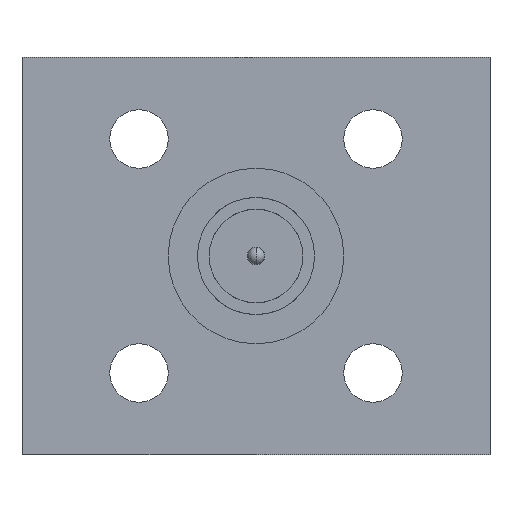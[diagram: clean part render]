
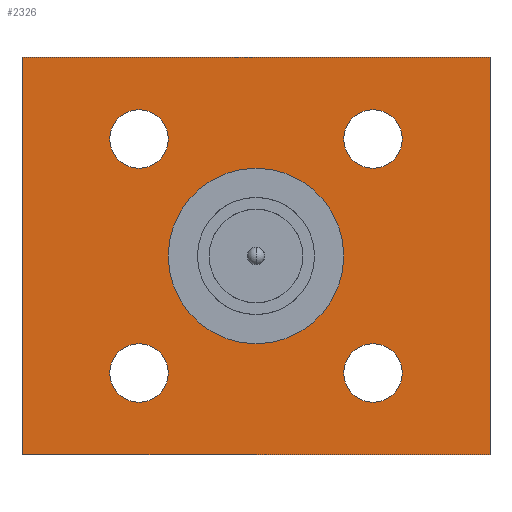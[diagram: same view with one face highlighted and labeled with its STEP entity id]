
A CAD part, front view. The second image highlights one B-rep face of the part: STEP entity #2326.
In plain terms, the highlighted planar face has unit normal (0, -1, 0).
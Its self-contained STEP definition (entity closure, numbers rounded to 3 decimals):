
#26 = DIRECTION ( 'NONE',  ( 1., 0., 0. ) ) ;
#34 = AXIS2_PLACEMENT_3D ( 'NONE', #1115, #1961, #706 ) ;
#38 = CARTESIAN_POINT ( 'NONE',  ( 20., 0., 17. ) ) ;
#47 = DIRECTION ( 'NONE',  ( 0., 0., -1. ) ) ;
#78 = DIRECTION ( 'NONE',  ( 0., -1., 0. ) ) ;
#135 = FACE_BOUND ( 'NONE', #1178, .T. ) ;
#184 = DIRECTION ( 'NONE',  ( 0., 1., 0. ) ) ;
#207 = VECTOR ( 'NONE', #233, 1000. ) ;
#223 = FACE_OUTER_BOUND ( 'NONE', #1985, .T. ) ;
#228 = CARTESIAN_POINT ( 'NONE',  ( 10., 0., -12.5 ) ) ;
#230 = EDGE_LOOP ( 'NONE', ( #1317, #2380 ) ) ;
#233 = DIRECTION ( 'NONE',  ( 0., 0., 1. ) ) ;
#288 = EDGE_CURVE ( 'NONE', #2323, #328, #293, .T. ) ;
#293 = CIRCLE ( 'NONE', #1329, 2.5 ) ;
#310 = DIRECTION ( 'NONE',  ( 0., -1., 0. ) ) ;
#328 = VERTEX_POINT ( 'NONE', #2024 ) ;
#391 = DIRECTION ( 'NONE',  ( 0., 0., -1. ) ) ;
#393 = EDGE_LOOP ( 'NONE', ( #1040, #1397 ) ) ;
#404 = EDGE_CURVE ( 'NONE', #1422, #2051, #2154, .T. ) ;
#422 = DIRECTION ( 'NONE',  ( 0., 0., -1. ) ) ;
#460 = CARTESIAN_POINT ( 'NONE',  ( 0., 0., 7.5 ) ) ;
#461 = VERTEX_POINT ( 'NONE', #460 ) ;
#467 = CARTESIAN_POINT ( 'NONE',  ( -20., 0., 17. ) ) ;
#506 = CARTESIAN_POINT ( 'NONE',  ( -20., 0., -17. ) ) ;
#551 = FACE_BOUND ( 'NONE', #393, .T. ) ;
#565 = VECTOR ( 'NONE', #26, 1000. ) ;
#584 = ORIENTED_EDGE ( 'NONE', *, *, #2441, .F. ) ;
#591 = CARTESIAN_POINT ( 'NONE',  ( 0., 0., 0. ) ) ;
#602 = VERTEX_POINT ( 'NONE', #2169 ) ;
#640 = AXIS2_PLACEMENT_3D ( 'NONE', #1417, #2244, #391 ) ;
#649 = CARTESIAN_POINT ( 'NONE',  ( -10., 0., 7.5 ) ) ;
#684 = CARTESIAN_POINT ( 'NONE',  ( 0., 0., 0. ) ) ;
#706 = DIRECTION ( 'NONE',  ( 0., 0., -1. ) ) ;
#732 = CIRCLE ( 'NONE', #1296, 2.5 ) ;
#738 = VERTEX_POINT ( 'NONE', #1199 ) ;
#747 = VERTEX_POINT ( 'NONE', #1444 ) ;
#754 = CARTESIAN_POINT ( 'NONE',  ( -10., 0., 10. ) ) ;
#761 = DIRECTION ( 'NONE',  ( 0., 1., 0. ) ) ;
#765 = EDGE_CURVE ( 'NONE', #461, #1421, #1078, .T. ) ;
#786 = ORIENTED_EDGE ( 'NONE', *, *, #2526, .F. ) ;
#799 = EDGE_CURVE ( 'NONE', #328, #2323, #2333, .T. ) ;
#862 = VERTEX_POINT ( 'NONE', #1069 ) ;
#866 = CIRCLE ( 'NONE', #1083, 2.5 ) ;
#914 = CARTESIAN_POINT ( 'NONE',  ( -10., 0., 12.5 ) ) ;
#937 = EDGE_CURVE ( 'NONE', #862, #1505, #945, .T. ) ;
#939 = EDGE_LOOP ( 'NONE', ( #1066, #2606 ) ) ;
#945 = LINE ( 'NONE', #506, #2632 ) ;
#954 = CIRCLE ( 'NONE', #34, 2.5 ) ;
#957 = ORIENTED_EDGE ( 'NONE', *, *, #1137, .F. ) ;
#985 = AXIS2_PLACEMENT_3D ( 'NONE', #1959, #78, #1901 ) ;
#996 = CIRCLE ( 'NONE', #1085, 2.5 ) ;
#1016 = ORIENTED_EDGE ( 'NONE', *, *, #1194, .F. ) ;
#1032 = VECTOR ( 'NONE', #422, 1000. ) ;
#1038 = ORIENTED_EDGE ( 'NONE', *, *, #2126, .F. ) ;
#1040 = ORIENTED_EDGE ( 'NONE', *, *, #799, .F. ) ;
#1053 = DIRECTION ( 'NONE',  ( 0., -1., 0. ) ) ;
#1054 = EDGE_CURVE ( 'NONE', #1421, #461, #2113, .T. ) ;
#1066 = ORIENTED_EDGE ( 'NONE', *, *, #1054, .T. ) ;
#1069 = CARTESIAN_POINT ( 'NONE',  ( 20., 0., -17. ) ) ;
#1078 = CIRCLE ( 'NONE', #1857, 7.5 ) ;
#1083 = AXIS2_PLACEMENT_3D ( 'NONE', #754, #1608, #2448 ) ;
#1085 = AXIS2_PLACEMENT_3D ( 'NONE', #1774, #2395, #1551 ) ;
#1088 = CARTESIAN_POINT ( 'NONE',  ( 10., 0., 10. ) ) ;
#1093 = ORIENTED_EDGE ( 'NONE', *, *, #937, .F. ) ;
#1115 = CARTESIAN_POINT ( 'NONE',  ( 10., 0., -10. ) ) ;
#1137 = EDGE_CURVE ( 'NONE', #1505, #602, #1453, .T. ) ;
#1162 = FACE_BOUND ( 'NONE', #230, .T. ) ;
#1178 = EDGE_LOOP ( 'NONE', ( #1038, #2221 ) ) ;
#1194 = EDGE_CURVE ( 'NONE', #1963, #862, #2512, .T. ) ;
#1199 = CARTESIAN_POINT ( 'NONE',  ( 10., 0., 7.5 ) ) ;
#1296 = AXIS2_PLACEMENT_3D ( 'NONE', #1531, #310, #1321 ) ;
#1307 = DIRECTION ( 'NONE',  ( 0., 0., -1. ) ) ;
#1317 = ORIENTED_EDGE ( 'NONE', *, *, #1680, .F. ) ;
#1321 = DIRECTION ( 'NONE',  ( 0., 0., -1. ) ) ;
#1329 = AXIS2_PLACEMENT_3D ( 'NONE', #2615, #1554, #1777 ) ;
#1377 = FACE_BOUND ( 'NONE', #939, .T. ) ;
#1395 = VERTEX_POINT ( 'NONE', #228 ) ;
#1397 = ORIENTED_EDGE ( 'NONE', *, *, #288, .F. ) ;
#1405 = EDGE_CURVE ( 'NONE', #738, #747, #2504, .T. ) ;
#1417 = CARTESIAN_POINT ( 'NONE',  ( -10., 0., -10. ) ) ;
#1421 = VERTEX_POINT ( 'NONE', #1858 ) ;
#1422 = VERTEX_POINT ( 'NONE', #649 ) ;
#1425 = AXIS2_PLACEMENT_3D ( 'NONE', #684, #1053, #1307 ) ;
#1444 = CARTESIAN_POINT ( 'NONE',  ( 10., 0., 12.5 ) ) ;
#1453 = LINE ( 'NONE', #2674, #207 ) ;
#1455 = CARTESIAN_POINT ( 'NONE',  ( -10., 0., -12.5 ) ) ;
#1505 = VERTEX_POINT ( 'NONE', #1518 ) ;
#1518 = CARTESIAN_POINT ( 'NONE',  ( -20., 0., -17. ) ) ;
#1531 = CARTESIAN_POINT ( 'NONE',  ( 10., 0., 10. ) ) ;
#1551 = DIRECTION ( 'NONE',  ( 0., 0., -1. ) ) ;
#1554 = DIRECTION ( 'NONE',  ( 0., -1., 0. ) ) ;
#1605 = DIRECTION ( 'NONE',  ( 0., 0., -1. ) ) ;
#1608 = DIRECTION ( 'NONE',  ( 0., -1., 0. ) ) ;
#1680 = EDGE_CURVE ( 'NONE', #2051, #1422, #866, .T. ) ;
#1774 = CARTESIAN_POINT ( 'NONE',  ( 10., 0., -10. ) ) ;
#1776 = DIRECTION ( 'NONE',  ( -1., 0., 0. ) ) ;
#1777 = DIRECTION ( 'NONE',  ( 0., 0., -1. ) ) ;
#1814 = AXIS2_PLACEMENT_3D ( 'NONE', #1088, #1915, #47 ) ;
#1850 = CARTESIAN_POINT ( 'NONE',  ( 20., 0., 17. ) ) ;
#1857 = AXIS2_PLACEMENT_3D ( 'NONE', #591, #184, #2229 ) ;
#1858 = CARTESIAN_POINT ( 'NONE',  ( 0., 0., -7.5 ) ) ;
#1879 = PLANE ( 'NONE',  #1425 ) ;
#1891 = LINE ( 'NONE', #467, #565 ) ;
#1901 = DIRECTION ( 'NONE',  ( 0., 0., -1. ) ) ;
#1915 = DIRECTION ( 'NONE',  ( 0., -1., 0. ) ) ;
#1959 = CARTESIAN_POINT ( 'NONE',  ( -10., 0., 10. ) ) ;
#1961 = DIRECTION ( 'NONE',  ( 0., -1., 0. ) ) ;
#1963 = VERTEX_POINT ( 'NONE', #38 ) ;
#1985 = EDGE_LOOP ( 'NONE', ( #1016, #584, #957, #1093 ) ) ;
#1988 = AXIS2_PLACEMENT_3D ( 'NONE', #2649, #761, #1605 ) ;
#2014 = EDGE_CURVE ( 'NONE', #1395, #2079, #954, .T. ) ;
#2024 = CARTESIAN_POINT ( 'NONE',  ( -10., 0., -7.5 ) ) ;
#2051 = VERTEX_POINT ( 'NONE', #914 ) ;
#2079 = VERTEX_POINT ( 'NONE', #2357 ) ;
#2113 = CIRCLE ( 'NONE', #1988, 7.5 ) ;
#2126 = EDGE_CURVE ( 'NONE', #747, #738, #732, .T. ) ;
#2154 = CIRCLE ( 'NONE', #985, 2.5 ) ;
#2169 = CARTESIAN_POINT ( 'NONE',  ( -20., 0., 17. ) ) ;
#2192 = ORIENTED_EDGE ( 'NONE', *, *, #2014, .F. ) ;
#2211 = EDGE_LOOP ( 'NONE', ( #786, #2192 ) ) ;
#2221 = ORIENTED_EDGE ( 'NONE', *, *, #1405, .F. ) ;
#2229 = DIRECTION ( 'NONE',  ( 0., 0., -1. ) ) ;
#2244 = DIRECTION ( 'NONE',  ( 0., -1., 0. ) ) ;
#2323 = VERTEX_POINT ( 'NONE', #1455 ) ;
#2326 = ADVANCED_FACE ( 'NONE', ( #1162, #135, #2415, #551, #1377, #223 ), #1879, .T. ) ;
#2333 = CIRCLE ( 'NONE', #640, 2.5 ) ;
#2357 = CARTESIAN_POINT ( 'NONE',  ( 10., 0., -7.5 ) ) ;
#2380 = ORIENTED_EDGE ( 'NONE', *, *, #404, .F. ) ;
#2395 = DIRECTION ( 'NONE',  ( 0., -1., 0. ) ) ;
#2415 = FACE_BOUND ( 'NONE', #2211, .T. ) ;
#2441 = EDGE_CURVE ( 'NONE', #602, #1963, #1891, .T. ) ;
#2448 = DIRECTION ( 'NONE',  ( 0., 0., -1. ) ) ;
#2504 = CIRCLE ( 'NONE', #1814, 2.5 ) ;
#2512 = LINE ( 'NONE', #1850, #1032 ) ;
#2526 = EDGE_CURVE ( 'NONE', #2079, #1395, #996, .T. ) ;
#2606 = ORIENTED_EDGE ( 'NONE', *, *, #765, .T. ) ;
#2615 = CARTESIAN_POINT ( 'NONE',  ( -10., 0., -10. ) ) ;
#2632 = VECTOR ( 'NONE', #1776, 1000. ) ;
#2649 = CARTESIAN_POINT ( 'NONE',  ( 0., 0., 0. ) ) ;
#2674 = CARTESIAN_POINT ( 'NONE',  ( -20., 0., 17. ) ) ;
